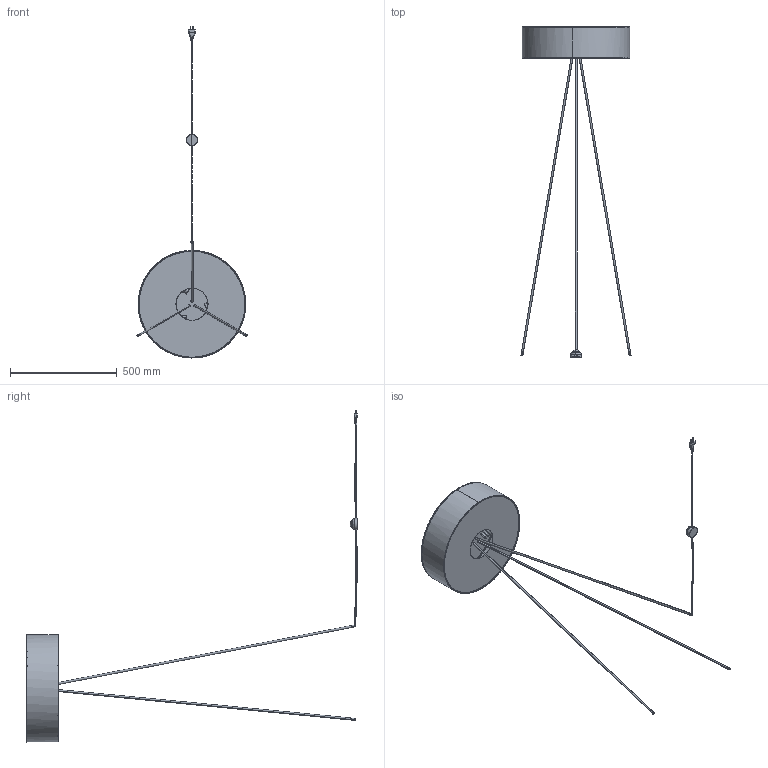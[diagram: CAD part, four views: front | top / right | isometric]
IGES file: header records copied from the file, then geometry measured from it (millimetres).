
Start section: SolidWorks IGES file using NURBS representation for surfaces
Global section: file name: Z:\Modele 3D_WWW\_KOLEKCJE_WWW\CADILLAC\CADILLAC-III-8190-7988-7990\CADILLAC-III-8190-7988-7990.IGS; native system: SolidWorks 2021; preprocessor: SolidWorks 2021; author: gabriela.tworek; date: 211116.101308; units: millimetre
Bounding box: 516.12 x 1551.41 x 1554.44 mm (x, y, z)
Surface area: 1431574.8 mm2 (no closed solid volume)
Topology: 0 solids, 0 shells, 146 faces, 1914 edges, 1902 vertices
Faces by surface type: bspline 146
